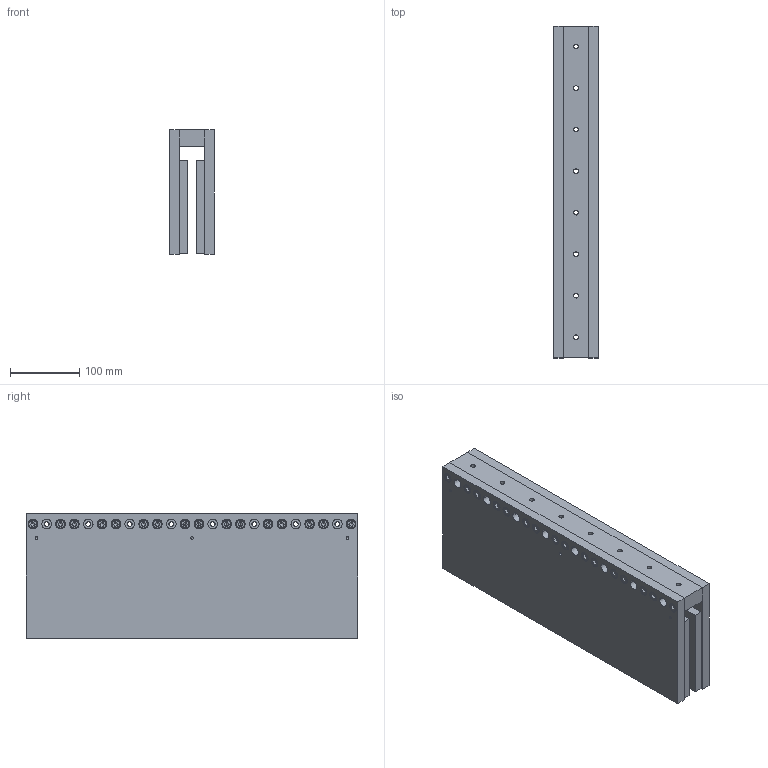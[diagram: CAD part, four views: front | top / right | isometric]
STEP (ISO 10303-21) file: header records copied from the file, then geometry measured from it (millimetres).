
FILE_DESCRIPTION (( 'STEP AP203' ), '1' );
FILE_NAME ('DX140F-TLXXX_defeature_defeature.step', '2021-01-18T10:27:30', ( '' ), ( '' ), 'SwSTEP 2.0', 'SolidWorks 2020', '' );
FILE_SCHEMA (( 'CONFIG_CONTROL_DESIGN' ));
Length unit declared in the file: millimetre
Products named in the file (1): DX140F-TLXXX_defeature_defeature
Bounding box: 64.5 x 479.5 x 180 mm (x, y, z)
Volume: 4305865.3 mm3; surface area: 481321.3 mm2
Topology: 1 solids, 49 shells, 1218 faces, 2774 edges, 1650 vertices
Faces by surface type: plane 554, cylinder 396, cone 204, torus 64
Entity records: 33687 total; most frequent: DIRECTION 6280, CARTESIAN_POINT 5759, ORIENTED_EDGE 5396, EDGE_CURVE 2698, AXIS2_PLACEMENT_3D 2427, VERTEX_POINT 1650, LINE 1426, VECTOR 1426
